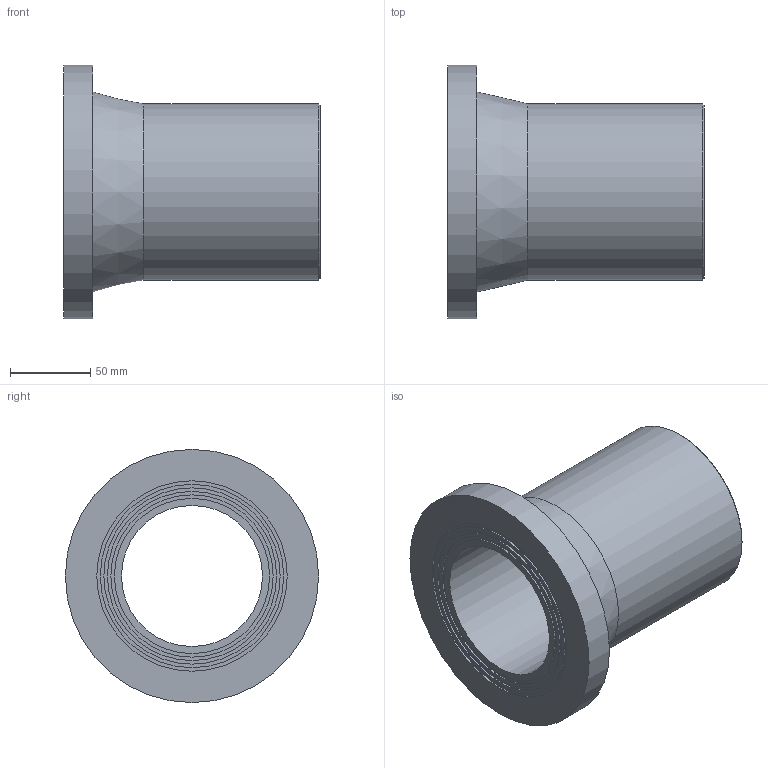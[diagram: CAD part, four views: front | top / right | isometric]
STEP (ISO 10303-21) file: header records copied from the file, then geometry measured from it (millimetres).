
FILE_DESCRIPTION(/* description */ ('Stub Flange 110'),/* implementation_level */ '2;1');
FILE_NAME(/* name */ 'C:\Dropbox\KIMPROJECTS-Inventor\99-16-3568-Processing\ElectroFusion Fittings\31.03.19\490207\490207110.ipt.stp',/* time_stamp */ '2019-03-31T18:57:44+03:00',/* author */ ('Кирилл'),/* organization */ (''),/* preprocessor_version */ 'ST-DEVELOPER v15.6',/* originating_system */ 'Autodesk Inventor 2015',/* authorisation */ '');
FILE_SCHEMA (('AUTOMOTIVE_DESIGN { 1 0 10303 214 3 1 1 }'));
Length unit declared in the file: millimetre
Products named in the file (1): 490207110
Bounding box: 160 x 158 x 158 mm (x, y, z)
Volume: 769939.2 mm3; surface area: 129605.6 mm2
Topology: 1 solids, 1 shells, 20 faces, 31 edges, 20 vertices
Faces by surface type: cylinder 9, plane 9, cone 2
Full cylindrical faces by diameter (mm): 88 x1, 96.8 x1, 101.2 x1, 105.6 x1, 110 x2, 114.4 x1, 118.8 x1, 158 x1
Entity records: 432 total; most frequent: DIRECTION 82, CARTESIAN_POINT 61, AXIS2_PLACEMENT_3D 41, EDGE_LOOP 40, ORIENTED_EDGE 40, FACE_BOUND 20, FACE_OUTER_BOUND 20, CIRCLE 20
